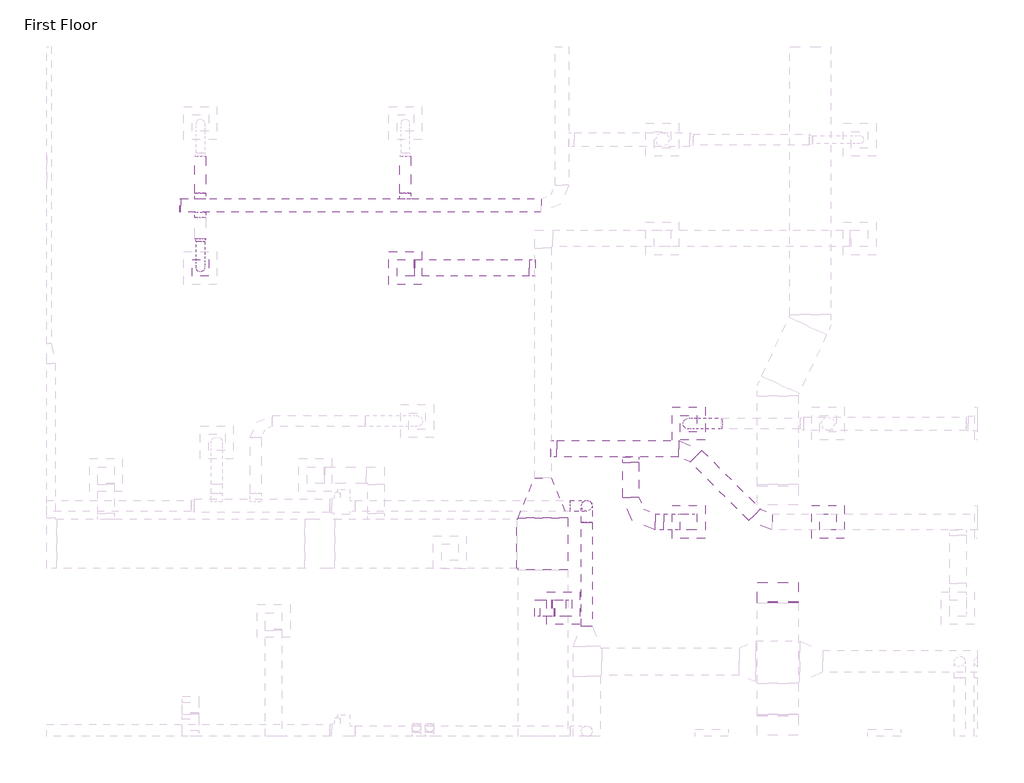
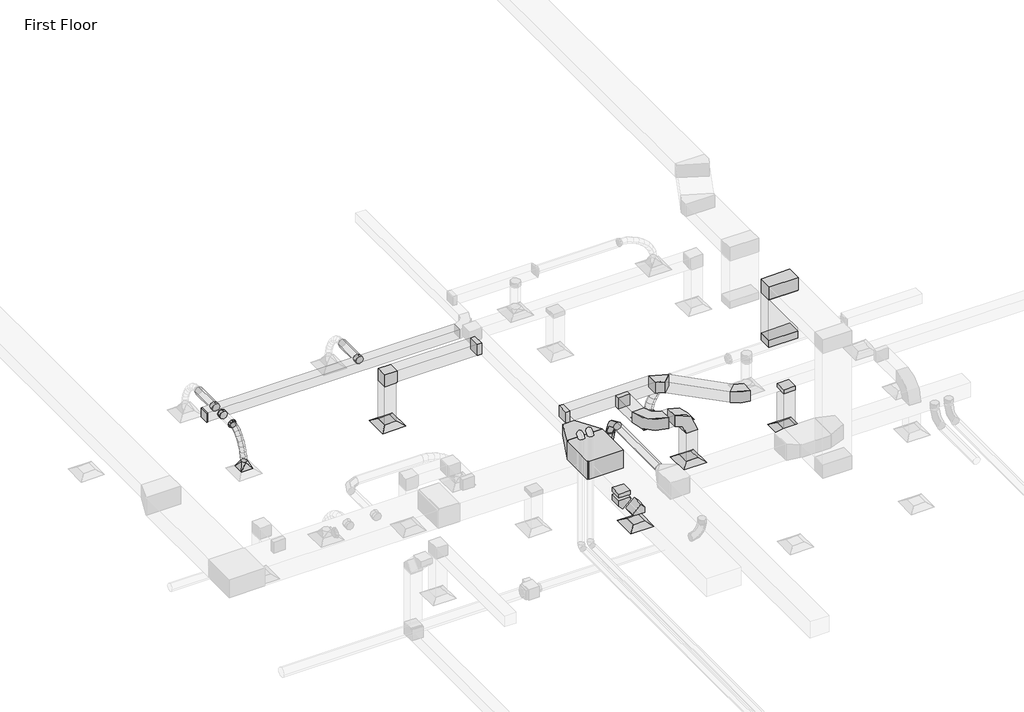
# One storey, part 14 of 61: 25 duct fittings, 19 duct segments, 5 air terminals.
"""IFC4 building model written with IfcOpenShell, lengths in millimetres."""

from ifc_helpers import new_model, si_unit, point, frame, frame_2d, origin, place, context, project, spatial, polyline, circle_curve, ellipse_curve, trimmed, segment, composite_curve, outline, extrude, transform, mapped, element, save
from ifc_brep_helpers import plane_surface, cylinder_surface, advanced_brep
from components import m_exhaust_grill_er_600_x_600_face_300_x_300_connection_ff221211, m_rectangular_elbow_mitered_standard_b81e202c, m_rectangular_elbow_mitered_standard_8eee5933, m_rectangular_elbow_mitered_standard_fe2310d5, m_rectangular_elbow_radius_1_5_w_5bed5c13, m_rectangular_elbow_radius_1_5_w_86011e9f, m_rectangular_endcap_standard_ffc747e0, m_rectangular_takeoff_standard_c00386d1, m_rectangular_takeoff_standard_b44bfa45, m_rectangular_takeoff_standard_ae9d706d, m_rectangular_tee_standard_27932f4a, m_rectangular_transition_angle_45_degree_1d3f6ee8, m_rectangular_to_round_transition_angle_45_degree_8f201c83, m_rectangular_to_round_transition_angle_45_degree_60daae35, m_round_elbow_1_5_d_b7bc3624, m_round_elbow_1_5_d_9c795b01, m_round_takeoff_standard_8efdd074, m_round_takeoff_standard_45336e8a, m_round_transition_angle_45_degree_6d7b59ce

model = new_model("IFC4")

# Units and contexts
model_context = context("Model", 3, world=origin())
ifc_project = project(units=[si_unit("LENGTHUNIT", "METRE", prefix="MILLI")], contexts=[model_context])

# Site, building, storey
site = spatial("IfcSite", under=ifc_project)
building = spatial("IfcBuilding", under=site)
storey = spatial("IfcBuildingStorey", under=building, Name="First Floor", Elevation=0.0)

# Air terminals
placement = place(None, origin())
m_exhaust_grill_er_600_x_600_face_300_x_300_connection_shape = m_exhaust_grill_er_600_x_600_face_300_x_300_connection_ff221211(model_context)
element("IfcAirTerminal", 1, ObjectType="M_Return Register : RR-600 x 600 Face 300 x 300 Connection", at=placement, inside=storey, context=model_context, shape_type="MappedRepresentation", body=[
    mapped(m_exhaust_grill_er_600_x_600_face_300_x_300_connection_shape, transform((-37211.3143318, 25626.8949438, 2680.0), x_axis=(1.0, 0.0, 0.0), y_axis=(0.0, 1.0, 0.0), z_axis=(0.0, 0.0, 1.0))),
])
element("IfcAirTerminal", 2, ObjectType="M_Return Register : RR-600 x 600 Face 300 x 300 Connection", at=placement, inside=storey, context=model_context, shape_type="MappedRepresentation", body=[
    mapped(m_exhaust_grill_er_600_x_600_face_300_x_300_connection_shape, transform((-34668.4421197, 25626.8949438, 2680.0), x_axis=(1.0, 0.0, 0.0), y_axis=(0.0, 1.0, 0.0), z_axis=(0.0, 0.0, 1.0))),
])
element("IfcAirTerminal", 3, ObjectType="M_Return Register : RR-600 x 600 Face 300 x 300 Connection", at=placement, inside=storey, context=model_context, shape_type="MappedRepresentation", body=[
    mapped(m_exhaust_grill_er_600_x_600_face_300_x_300_connection_shape, transform((-39495.2297098, 24053.9482503, 2680.0), x_axis=(1.0, 0.0, 0.0), y_axis=(0.0, 1.0, 0.0), z_axis=(0.0, 0.0, 1.0))),
])
element("IfcAirTerminal", 4, ObjectType="M_Return Register : RR-600 x 600 Face 300 x 300 Connection", at=placement, inside=storey, context=model_context, shape_type="MappedRepresentation", body=[
    mapped(m_exhaust_grill_er_600_x_600_face_300_x_300_connection_shape, transform((-42375.0776991, 30260.8017144, 2680.0), x_axis=(1.0, 0.0, 0.0), y_axis=(0.0, 1.0, 0.0), z_axis=(0.0, 0.0, 1.0))),
])
element("IfcAirTerminal", 5, ObjectType="M_Supply Diffuser : SD-600 x 600 Face 300 x 300 Connection", at=placement, inside=storey, context=model_context, shape_type="MappedRepresentation", body=[
    mapped(m_exhaust_grill_er_600_x_600_face_300_x_300_connection_shape, transform((-37211.3143318, 27420.2137368, 2680.0), x_axis=(1.0, 0.0, 0.0), y_axis=(0.0, 1.0, 0.0), z_axis=(0.0, 0.0, 1.0))),
])

# Duct fittings
m_rectangular_elbow_mitered_standard_shape = m_rectangular_elbow_mitered_standard_b81e202c(model_context)
element("IfcDuctFitting", 6, ObjectType="M_Rectangular Elbow - Mitered : Standard", at=placement, inside=storey, context=model_context, shape_type="MappedRepresentation", body=[
    mapped(m_rectangular_elbow_mitered_standard_shape, transform((-39495.2297098, 24053.9482503, 3114.4679656), x_axis=(0.0, 0.0, 1.0), y_axis=(-1.0, 0.0, 0.0), z_axis=(0.0, -1.0, 0.0))),
])
element("IfcDuctFitting", 7, ObjectType="M_Rectangular Elbow - Mitered : Standard", at=placement, inside=storey, context=model_context, shape_type="MappedRepresentation", body=[
    mapped(m_rectangular_elbow_mitered_standard_shape, transform((-39867.4195561, 24053.9482503, 3486.657812), x_axis=(-0.7071067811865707, 0.0, 0.7071067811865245), y_axis=(0.7071067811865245, 0.0, 0.7071067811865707), z_axis=(0.0, 1.0, 0.0))),
])
m_rectangular_elbow_mitered_standard_2_shape = m_rectangular_elbow_mitered_standard_8eee5933(model_context)
element("IfcDuctFitting", 8, ObjectType="M_Rectangular Elbow - Mitered : Standard", at=placement, inside=storey, context=model_context, shape_type="MappedRepresentation", body=[
    mapped(m_rectangular_elbow_mitered_standard_2_shape, transform((-42375.0776991, 30260.8017144, 4000.0), x_axis=(0.0, 0.0, 1.0), y_axis=(1.0, 0.0, 0.0), z_axis=(0.0, 1.0, 0.0))),
])
m_rectangular_elbow_mitered_standard_3_shape = m_rectangular_elbow_mitered_standard_fe2310d5(model_context)
element("IfcDuctFitting", 9, ObjectType="M_Rectangular Elbow - Mitered : Standard", at=placement, inside=storey, context=model_context, shape_type="MappedRepresentation", body=[
    mapped(m_rectangular_elbow_mitered_standard_3_shape, transform((-35582.8559727, 24346.9475748, 7719.5), x_axis=(0.0, 1.0, 0.0), y_axis=(0.0, 0.0, -1.0), z_axis=(-1.0, 0.0, 0.0))),
])
m_rectangular_elbow_radius_1_5_w_shape = m_rectangular_elbow_radius_1_5_w_5bed5c13(model_context)
element("IfcDuctFitting", 10, ObjectType="M_Rectangular Elbow - Radius : 1.5 W", at=placement, inside=storey, context=model_context, shape_type="MappedRepresentation", body=[
    mapped(m_rectangular_elbow_radius_1_5_w_shape, transform((-35875.1238283, 25626.8949438, 4000.0), x_axis=(0.7071067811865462, -0.7071067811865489, 0.0), y_axis=(0.7071067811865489, 0.7071067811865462, 0.0), z_axis=(0.0, 0.0, 1.0))),
])
element("IfcDuctFitting", 11, ObjectType="M_Rectangular Elbow - Radius : 1.5 W", at=placement, inside=storey, context=model_context, shape_type="MappedRepresentation", body=[
    mapped(m_rectangular_elbow_radius_1_5_w_shape, transform((-37207.2587475, 26959.029863, 4000.0), x_axis=(-0.7071067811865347, 0.7071067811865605, 0.0), y_axis=(-0.7071067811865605, -0.7071067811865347, 0.0), z_axis=(0.0, 0.0, 1.0))),
])
m_rectangular_elbow_radius_1_5_w_2_shape = m_rectangular_elbow_radius_1_5_w_86011e9f(model_context)
element("IfcDuctFitting", 12, ObjectType="M_Rectangular Elbow - Radius : 1.5 W", at=placement, inside=storey, context=model_context, shape_type="MappedRepresentation", body=[
    mapped(m_rectangular_elbow_radius_1_5_w_2_shape, transform((-37211.3143318, 25626.8949438, 4000.0), x_axis=(0.0, 0.0, 1.0), y_axis=(-1.0, 0.0, 0.0), z_axis=(0.0, -1.0, 0.0))),
])
element("IfcDuctFitting", 13, ObjectType="M_Rectangular Elbow - Radius : 1.5 W", at=placement, inside=storey, context=model_context, shape_type="MappedRepresentation", body=[
    mapped(m_rectangular_elbow_radius_1_5_w_2_shape, transform((-38265.9613903, 25626.8949438, 4000.0), x_axis=(0.0, -1.0, 0.0), y_axis=(1.0, 0.0, 0.0), z_axis=(0.0, 0.0, 1.0))),
])
m_rectangular_endcap_standard_shape = m_rectangular_endcap_standard_ffc747e0(model_context)
element("IfcDuctFitting", 14, ObjectType="M_Rectangular Endcap : Standard", at=placement, inside=storey, context=model_context, shape_type="MappedRepresentation", body=[
    mapped(m_rectangular_endcap_standard_shape, transform((-46468.4687402, 31400.6692233, 3659.5), x_axis=(-1.0, 0.0, 0.0), y_axis=(0.0, -1.0, 0.0), z_axis=(0.0, 0.0, 1.0))),
])
m_rectangular_takeoff_standard_shape = m_rectangular_takeoff_standard_c00386d1(model_context)
element("IfcDuctFitting", 15, ObjectType="M_Rectangular Takeoff : Standard", at=placement, inside=storey, context=model_context, shape_type="MappedRepresentation", body=[
    mapped(m_rectangular_takeoff_standard_shape, transform((-34668.4421197, 25626.8949438, 3850.0), x_axis=(0.0, 0.0, -1.0), y_axis=(0.0, 1.0, 0.0), z_axis=(1.0, 0.0, 0.0))),
])
element("IfcDuctFitting", 16, ObjectType="M_Rectangular Takeoff : Standard", at=placement, inside=storey, context=model_context, shape_type="MappedRepresentation", body=[
    mapped(m_rectangular_takeoff_standard_shape, transform((-39867.4195561, 24053.9482503, 3750.0), x_axis=(0.0, 0.0, -1.0), y_axis=(1.0, 0.0, 0.0), z_axis=(0.0, -1.0, 0.0))),
])
element("IfcDuctFitting", 17, ObjectType="M_Rectangular Takeoff : Standard", at=placement, inside=storey, context=model_context, shape_type="MappedRepresentation", body=[
    mapped(m_rectangular_takeoff_standard_shape, transform((-38265.9613903, 26809.029863, 4000.0), x_axis=(0.0, -1.0, 0.0), y_axis=(-1.0, 0.0, 0.0), z_axis=(0.0, 0.0, -1.0))),
])
m_rectangular_takeoff_standard_2_shape = m_rectangular_takeoff_standard_b44bfa45(model_context)
element("IfcDuctFitting", 18, ObjectType="M_Rectangular Takeoff : Standard", at=placement, inside=storey, context=model_context, shape_type="MappedRepresentation", body=[
    mapped(m_rectangular_takeoff_standard_2_shape, transform((-40017.4195561, 30260.8017144, 4000.0), x_axis=(-1.0, 0.0, 0.0), y_axis=(0.0, 1.0, 0.0), z_axis=(0.0, 0.0, -1.0))),
])
element("IfcDuctFitting", 19, ObjectType="M_Rectangular Takeoff : Standard", at=placement, inside=storey, context=model_context, shape_type="MappedRepresentation", body=[
    mapped(m_rectangular_takeoff_standard_2_shape, transform((-39717.4195561, 26959.029863, 4000.0), x_axis=(1.0, 0.0, 0.0), y_axis=(0.0, -1.0, 0.0), z_axis=(0.0, 0.0, -1.0))),
])
m_rectangular_takeoff_standard_3_shape = m_rectangular_takeoff_standard_ae9d706d(model_context)
element("IfcDuctFitting", 20, ObjectType="M_Rectangular Takeoff : Standard", at=placement, inside=storey, context=model_context, shape_type="MappedRepresentation", body=[
    mapped(m_rectangular_takeoff_standard_3_shape, transform((-35582.8559727, 24346.9475748, 6220.0), x_axis=(0.0, 0.0, 1.0), y_axis=(1.0, 0.0, 0.0), z_axis=(0.0, 1.0, 0.0))),
])
m_rectangular_tee_standard_shape = m_rectangular_tee_standard_27932f4a(model_context)
element("IfcDuctFitting", 21, ObjectType="M_Rectangular Tee : Standard", at=placement, inside=storey, context=model_context, shape_type="MappedRepresentation", body=[
    mapped(m_rectangular_tee_standard_shape, transform((-39867.4195561, 25228.8199771, 4000.0), x_axis=(0.0, -1.0, 0.0), y_axis=(0.9999999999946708, 0.0, 3.264712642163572e-06), z_axis=(-3.264712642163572e-06, 0.0, 0.9999999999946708))),
])
m_rectangular_transition_angle_45_degree_shape = m_rectangular_transition_angle_45_degree_1d3f6ee8(model_context)
element("IfcDuctFitting", 22, ObjectType="M_Rectangular Transition - Angle : 45 Degree", at=placement, inside=storey, context=model_context, shape_type="MappedRepresentation", body=[
    mapped(m_rectangular_transition_angle_45_degree_shape, transform((-39867.4195561, 25703.8199771, 4000.0), x_axis=(0.0, 1.0, 0.0), y_axis=(-0.9999999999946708, 0.0, -3.264712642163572e-06), z_axis=(-3.264712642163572e-06, 0.0, 0.9999999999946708))),
])
m_rectangular_to_round_transition_angle_45_degree_shape = m_rectangular_to_round_transition_angle_45_degree_8f201c83(model_context)
element("IfcDuctFitting", 23, ObjectType="M_Rectangular to Round Transition - Angle : 45 Degree", at=placement, inside=storey, context=model_context, shape_type="MappedRepresentation", body=[
    mapped(m_rectangular_to_round_transition_angle_45_degree_shape, transform((-46112.4296862, 30260.8017144, 2781.6), x_axis=(0.0, 0.0, 1.0), y_axis=(1.0, 0.0, 0.0), z_axis=(0.0, 1.0, 0.0))),
])
m_rectangular_to_round_transition_angle_45_degree_2_shape = m_rectangular_to_round_transition_angle_45_degree_60daae35(model_context)
element("IfcDuctFitting", 24, ObjectType="M_Rectangular to Round Transition - Angle : 45 Degree", at=placement, inside=storey, context=model_context, shape_type="MappedRepresentation", body=[
    mapped(m_rectangular_to_round_transition_angle_45_degree_2_shape, transform((-37211.3143318, 27420.2137368, 2781.6), x_axis=(0.0, 0.0, 1.0), y_axis=(1.0, 0.0, 0.0), z_axis=(0.0, 1.0, 0.0))),
])
m_round_elbow_1_5_d_shape = m_round_elbow_1_5_d_b7bc3624(model_context)
element("IfcDuctFitting", 25, ObjectType="M_Round Elbow : 1.5 D", at=placement, inside=storey, context=model_context, shape_type="MappedRepresentation", body=[
    mapped(m_round_elbow_1_5_d_shape, transform((-39067.4195561, 25921.8621835, 4259.5), x_axis=(0.0, 0.0, 1.0), y_axis=(0.0, -1.0, 0.0), z_axis=(1.0, 0.0, 0.0))),
])
m_round_elbow_1_5_d_2_shape = m_round_elbow_1_5_d_9c795b01(model_context)
element("IfcDuctFitting", 26, ObjectType="M_Round Elbow : 1.5 D", at=placement, inside=storey, context=model_context, shape_type="MappedRepresentation", body=[
    mapped(m_round_elbow_1_5_d_2_shape, transform((-39067.4195561, 25921.8621835, 3634.5), x_axis=(0.9999999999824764, 0.0, -5.920075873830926e-06), y_axis=(5.920075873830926e-06, 0.0, 0.9999999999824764), z_axis=(0.0, -1.0, 0.0))),
])
m_round_takeoff_standard_shape = m_round_takeoff_standard_8efdd074(model_context)
element("IfcDuctFitting", 27, ObjectType="M_Round Takeoff : Standard", at=placement, inside=storey, context=model_context, shape_type="MappedRepresentation", body=[
    mapped(m_round_takeoff_standard_shape, transform((-46112.4296862, 31275.6692233, 3659.5), x_axis=(0.0, -1.0, 0.0), y_axis=(-1.0, 0.0, 0.0), z_axis=(0.0, 0.0, -1.0))),
])
m_round_takeoff_standard_2_shape = m_round_takeoff_standard_45336e8a(model_context)
element("IfcDuctFitting", 28, ObjectType="M_Round Takeoff : Standard", at=placement, inside=storey, context=model_context, shape_type="MappedRepresentation", body=[
    mapped(m_round_takeoff_standard_2_shape, transform((-42375.0776991, 31525.6692233, 3659.5), x_axis=(0.0, 1.0, 0.0), y_axis=(1.0, 0.0, 0.0), z_axis=(0.0, 0.0, -1.0))),
])
element("IfcDuctFitting", 29, ObjectType="M_Round Takeoff : Standard", at=placement, inside=storey, context=model_context, shape_type="MappedRepresentation", body=[
    mapped(m_round_takeoff_standard_2_shape, transform((-46112.4296862, 31525.6692233, 3659.5), x_axis=(0.0, 1.0, 0.0), y_axis=(1.0, 0.0, 0.0), z_axis=(0.0, 0.0, -1.0))),
])
m_round_transition_angle_45_degree_shape = m_round_transition_angle_45_degree_6d7b59ce(model_context)
element("IfcDuctFitting", 30, ObjectType="M_Round Transition - Angle : 45 Degree", at=placement, inside=storey, context=model_context, shape_type="MappedRepresentation", body=[
    mapped(m_round_transition_angle_45_degree_shape, transform((-46112.4296862, 30800.6692233, 3659.5), x_axis=(0.0, -1.0, 0.0), y_axis=(1.0, 0.0, 0.0), z_axis=(0.0, 0.0, 1.0))),
])

# Duct segments
element("IfcDuctSegment", 31, ObjectType="Flex - Round", at=placement, inside=storey, context=model_context, shape_type="AdvancedBrep", body=[
    advanced_brep(
    [(-46037.4296862, 30740.3138842, 3659.5), (-46112.4296862, 30753.6686669, 3585.6985787), (-46187.4296862, 30740.3138842, 3659.5), (-46112.4296862, 30726.9591016, 3733.3014213), (-46037.4296862, 30638.7566817, 3641.1226525), (-46112.4296862, 30664.1907487, 3569.5070457), (-46187.4296862, 30638.7566817, 3641.1226525), (-46112.4296862, 30613.3226147, 3712.7382593), (-46037.4296862, 30260.8017144, 2962.6660172), (-46112.4296862, 30186.0496377, 2968.7592134), (-46187.4296862, 30260.8017144, 2962.6660172), (-46112.4296862, 30335.553791, 2956.572821), (-46037.4296862, 30546.4385198, 3590.2702195), (-46112.4296862, 30590.9255392, 3529.1497197), (-46187.4296862, 30546.4385198, 3590.2702195), (-46112.4296862, 30501.9515004, 3651.3907193), (-46037.4296862, 30464.6853327, 3513.3621151), (-46112.4296862, 30521.2668305, 3463.6193174), (-46187.4296862, 30464.6853327, 3513.3621151), (-46112.4296862, 30408.1038349, 3563.1049128), (-46037.4296862, 30394.8230545, 3416.8177534), (-46112.4296862, 30458.8867792, 3377.4148249), (-46187.4296862, 30394.8230545, 3416.8177534), (-46112.4296862, 30330.7593298, 3456.2206819), (-46037.4296862, 30338.1776194, 3307.0565486), (-46112.4296862, 30407.060902, 3276.9924217), (-46187.4296862, 30338.1776194, 3307.0565486), (-46112.4296862, 30269.2943369, 3337.1206755), (-46037.4296862, 30296.0749616, 3190.4979149), (-46112.4296862, 30368.2207748, 3169.4659045), (-46187.4296862, 30296.0749616, 3190.4979149), (-46112.4296862, 30223.9291485, 3211.5299253), (-46037.4296862, 30269.8410152, 3073.5612664), (-46112.4296862, 30344.1678387, 3062.2510123), (-46187.4296862, 30269.8410152, 3073.5612664), (-46112.4296862, 30195.5141917, 3084.8715204)],
    [
        (0, 1, circle_curve(frame((-46112.4296862, 30740.3138842, 3659.5), z_axis=(0.0, 0.9840189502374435, 0.17806376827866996), x_axis=(1.0, 0.0, 0.0)), 75.0)),
        (1, 2, circle_curve(frame((-46112.4296862, 30740.3138842, 3659.5), z_axis=(0.0, 0.9840189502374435, 0.17806376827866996), x_axis=(1.0, 0.0, 0.0)), 75.0)),
        (2, 3, circle_curve(frame((-46112.4296862, 30740.3138842, 3659.5), z_axis=(0.0, 0.9840189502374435, 0.17806376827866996), x_axis=(1.0, 0.0, 0.0)), 75.0)),
        (3, 0, circle_curve(frame((-46112.4296862, 30740.3138842, 3659.5), z_axis=(0.0, 0.9840189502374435, 0.17806376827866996), x_axis=(1.0, 0.0, 0.0)), 75.0)),
        (0, 4),
        (4, 5, ellipse_curve(frame((-46112.4296862, 30638.7566817, 3641.1226525), z_axis=(0.0, 0.9423361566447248, 0.33466784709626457), x_axis=(0.0, 0.3346678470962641, -0.9423361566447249)), 75.9979401, 75.0)),
        (5, 1),
        (5, 6, ellipse_curve(frame((-46112.4296862, 30638.7566817, 3641.1226525), z_axis=(0.0, 0.9423361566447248, 0.33466784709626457), x_axis=(0.0, 0.3346678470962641, -0.9423361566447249)), 75.9979401, 75.0)),
        (6, 2),
        (6, 7, ellipse_curve(frame((-46112.4296862, 30638.7566817, 3641.1226525), z_axis=(0.0, 0.9423361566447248, 0.33466784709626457), x_axis=(0.0, 0.3346678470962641, -0.9423361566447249)), 75.9979401, 75.0)),
        (7, 3),
        (7, 4, ellipse_curve(frame((-46112.4296862, 30638.7566817, 3641.1226525), z_axis=(0.0, 0.9423361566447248, 0.33466784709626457), x_axis=(0.0, 0.3346678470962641, -0.9423361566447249)), 75.9979401, 75.0)),
        (8, 9, circle_curve(frame((-46112.4296862, 30260.8017144, 2962.6660172), z_axis=(0.0, -0.08124261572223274, -0.9966943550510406), x_axis=(1.0, 0.0, 0.0)), 75.0)),
        (9, 10, circle_curve(frame((-46112.4296862, 30260.8017144, 2962.6660172), z_axis=(0.0, -0.08124261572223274, -0.9966943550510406), x_axis=(1.0, 0.0, 0.0)), 75.0)),
        (10, 11, circle_curve(frame((-46112.4296862, 30260.8017144, 2962.6660172), z_axis=(0.0, -0.08124261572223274, -0.9966943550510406), x_axis=(1.0, 0.0, 0.0)), 75.0)),
        (11, 8, circle_curve(frame((-46112.4296862, 30260.8017144, 2962.6660172), z_axis=(0.0, -0.08124261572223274, -0.9966943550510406), x_axis=(1.0, 0.0, 0.0)), 75.0)),
        (4, 12),
        (12, 13, ellipse_curve(frame((-46112.4296862, 30546.4385198, 3590.2702195), z_axis=(0.0, 0.8085110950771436, 0.5884809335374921), x_axis=(0.0, 0.5884809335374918, -0.8085110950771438)), 75.5963649, 75.0)),
        (13, 5),
        (13, 14, ellipse_curve(frame((-46112.4296862, 30546.4385198, 3590.2702195), z_axis=(0.0, 0.8085110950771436, 0.5884809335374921), x_axis=(0.0, 0.5884809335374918, -0.8085110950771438)), 75.5963649, 75.0)),
        (14, 6),
        (14, 15, ellipse_curve(frame((-46112.4296862, 30546.4385198, 3590.2702195), z_axis=(0.0, 0.8085110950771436, 0.5884809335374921), x_axis=(0.0, 0.5884809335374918, -0.8085110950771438)), 75.5963649, 75.0)),
        (15, 7),
        (15, 12, ellipse_curve(frame((-46112.4296862, 30546.4385198, 3590.2702195), z_axis=(0.0, 0.8085110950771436, 0.5884809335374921), x_axis=(0.0, 0.5884809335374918, -0.8085110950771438)), 75.5963649, 75.0)),
        (12, 16),
        (16, 17, ellipse_curve(frame((-46112.4296862, 30464.6853327, 3513.3621151), z_axis=(0.0, 0.6602618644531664, 0.7510354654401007), x_axis=(0.0, 0.7510354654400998, -0.6602618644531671)), 75.3379839, 75.0)),
        (17, 13),
        (17, 18, ellipse_curve(frame((-46112.4296862, 30464.6853327, 3513.3621151), z_axis=(0.0, 0.6602618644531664, 0.7510354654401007), x_axis=(0.0, 0.7510354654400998, -0.6602618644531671)), 75.3379839, 75.0)),
        (18, 14),
        (18, 19, ellipse_curve(frame((-46112.4296862, 30464.6853327, 3513.3621151), z_axis=(0.0, 0.6602618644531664, 0.7510354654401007), x_axis=(0.0, 0.7510354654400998, -0.6602618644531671)), 75.3379839, 75.0)),
        (19, 15),
        (19, 16, ellipse_curve(frame((-46112.4296862, 30464.6853327, 3513.3621151), z_axis=(0.0, 0.6602618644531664, 0.7510354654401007), x_axis=(0.0, 0.7510354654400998, -0.6602618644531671)), 75.3379839, 75.0)),
        (16, 20),
        (20, 21, ellipse_curve(frame((-46112.4296862, 30394.8230545, 3416.8177534), z_axis=(0.0, 0.5238958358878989, 0.8517823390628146), x_axis=(0.0, 0.8517823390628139, -0.5238958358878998)), 75.2113794, 75.0)),
        (21, 17),
        (21, 22, ellipse_curve(frame((-46112.4296862, 30394.8230545, 3416.8177534), z_axis=(0.0, 0.5238958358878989, 0.8517823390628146), x_axis=(0.0, 0.8517823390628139, -0.5238958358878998)), 75.2113794, 75.0)),
        (22, 18),
        (22, 23, ellipse_curve(frame((-46112.4296862, 30394.8230545, 3416.8177534), z_axis=(0.0, 0.5238958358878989, 0.8517823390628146), x_axis=(0.0, 0.8517823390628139, -0.5238958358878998)), 75.2113794, 75.0)),
        (23, 19),
        (23, 20, ellipse_curve(frame((-46112.4296862, 30394.8230545, 3416.8177534), z_axis=(0.0, 0.5238958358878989, 0.8517823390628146), x_axis=(0.0, 0.8517823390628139, -0.5238958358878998)), 75.2113794, 75.0)),
        (20, 24),
        (24, 25, ellipse_curve(frame((-46112.4296862, 30338.1776194, 3307.0565486), z_axis=(0.0, 0.4000111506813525, 0.9165102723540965), x_axis=(0.0, 0.9165102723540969, -0.4000111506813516)), 75.1582221, 75.0)),
        (25, 21),
        (25, 26, ellipse_curve(frame((-46112.4296862, 30338.1776194, 3307.0565486), z_axis=(0.0, 0.4000111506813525, 0.9165102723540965), x_axis=(0.0, 0.9165102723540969, -0.4000111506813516)), 75.1582221, 75.0)),
        (26, 22),
        (26, 27, ellipse_curve(frame((-46112.4296862, 30338.1776194, 3307.0565486), z_axis=(0.0, 0.4000111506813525, 0.9165102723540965), x_axis=(0.0, 0.9165102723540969, -0.4000111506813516)), 75.1582221, 75.0)),
        (27, 23),
        (27, 24, ellipse_curve(frame((-46112.4296862, 30338.1776194, 3307.0565486), z_axis=(0.0, 0.4000111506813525, 0.9165102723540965), x_axis=(0.0, 0.9165102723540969, -0.4000111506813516)), 75.1582221, 75.0)),
        (24, 28),
        (28, 29, ellipse_curve(frame((-46112.4296862, 30296.0749616, 3190.4979149), z_axis=(0.0, 0.27987100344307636, 0.9600376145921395), x_axis=(0.0, 0.96003761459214, -0.2798710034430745)), 75.1489442, 75.0)),
        (29, 25),
        (29, 30, ellipse_curve(frame((-46112.4296862, 30296.0749616, 3190.4979149), z_axis=(0.0, 0.27987100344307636, 0.9600376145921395), x_axis=(0.0, 0.96003761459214, -0.2798710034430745)), 75.1489442, 75.0)),
        (30, 26),
        (30, 31, ellipse_curve(frame((-46112.4296862, 30296.0749616, 3190.4979149), z_axis=(0.0, 0.27987100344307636, 0.9600376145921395), x_axis=(0.0, 0.96003761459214, -0.2798710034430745)), 75.1489442, 75.0)),
        (31, 27),
        (31, 28, ellipse_curve(frame((-46112.4296862, 30296.0749616, 3190.4979149), z_axis=(0.0, 0.27987100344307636, 0.9600376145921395), x_axis=(0.0, 0.96003761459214, -0.2798710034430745)), 75.1489442, 75.0)),
        (28, 32),
        (32, 33, ellipse_curve(frame((-46112.4296862, 30269.8410152, 3073.5612664), z_axis=(0.0, 0.15043745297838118, 0.9886195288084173), x_axis=(0.0, 0.9886195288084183, -0.15043745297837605)), 75.182435, 75.0)),
        (33, 29),
        (33, 34, ellipse_curve(frame((-46112.4296862, 30269.8410152, 3073.5612664), z_axis=(0.0, 0.15043745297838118, 0.9886195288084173), x_axis=(0.0, 0.9886195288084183, -0.15043745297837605)), 75.182435, 75.0)),
        (34, 30),
        (34, 35, ellipse_curve(frame((-46112.4296862, 30269.8410152, 3073.5612664), z_axis=(0.0, 0.15043745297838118, 0.9886195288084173), x_axis=(0.0, 0.9886195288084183, -0.15043745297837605)), 75.182435, 75.0)),
        (35, 31),
        (35, 32, ellipse_curve(frame((-46112.4296862, 30269.8410152, 3073.5612664), z_axis=(0.0, 0.15043745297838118, 0.9886195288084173), x_axis=(0.0, 0.9886195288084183, -0.15043745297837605)), 75.182435, 75.0)),
        (32, 8),
        (11, 33),
        (10, 34),
        (9, 35),
    ],
    [
        plane_surface(frame((-46112.4296862, 30753.6686669, 3585.6985787), z_axis=(0.0, 0.9840189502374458, 0.17806376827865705), x_axis=(1.0, 0.0, 0.0))),
        cylinder_surface(frame((-46112.4296862, 30740.3138842, 3659.5), z_axis=(0.0, 0.9840189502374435, 0.17806376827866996), x_axis=(1.0, 0.0, 0.0)), 75.0),
        plane_surface(frame((-46112.4296862, 30335.553791, 2956.572821), z_axis=(0.0, -0.08124261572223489, -0.9966943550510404), x_axis=(1.0, 0.0, 0.0))),
        cylinder_surface(frame((-46112.4296862, 30638.7566817, 3641.1226525), z_axis=(0.0, 0.8759054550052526, 0.482482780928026), x_axis=(1.0, 0.0, 0.0)), 75.0),
        cylinder_surface(frame((-46112.4296862, 30546.4385198, 3590.2702195), z_axis=(0.0, 0.7283603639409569, 0.6851942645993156), x_axis=(1.0, 0.0, 0.0)), 75.0),
        cylinder_surface(frame((-46112.4296862, 30464.6853327, 3513.3621151), z_axis=(0.0, 0.5862391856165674, 0.8101380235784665), x_axis=(1.0, 0.0, 0.0)), 75.0),
        cylinder_surface(frame((-46112.4296862, 30394.8230545, 3416.8177534), z_axis=(0.0, 0.45860769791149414, 0.8886388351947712), x_axis=(1.0, 0.0, 0.0)), 75.0),
        cylinder_surface(frame((-46112.4296862, 30338.1776194, 3307.0565486), z_axis=(0.0, 0.3397304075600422, 0.9405228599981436), x_axis=(1.0, 0.0, 0.0)), 75.0),
        cylinder_surface(frame((-46112.4296862, 30296.0749616, 3190.4979149), z_axis=(0.0, 0.21890219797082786, 0.9757468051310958), x_axis=(1.0, 0.0, 0.0)), 75.0),
        cylinder_surface(frame((-46112.4296862, 30269.8410152, 3073.5612664), z_axis=(0.0, 0.08124261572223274, 0.9966943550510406), x_axis=(1.0, 0.0, 0.0)), 75.0),
    ],
    [
        (0, [[1, 2, 3, 4]]),
        (1, [[-1, 5, 6, 7]]),
        (1, [[-2, -7, 8, 9]]),
        (1, [[-3, -9, 10, 11]]),
        (1, [[-4, -11, 12, -5]]),
        (2, [[13, 14, 15, 16]]),
        (3, [[-6, 17, 18, 19]]),
        (3, [[-8, -19, 20, 21]]),
        (3, [[-10, -21, 22, 23]]),
        (3, [[-12, -23, 24, -17]]),
        (4, [[-18, 25, 26, 27]]),
        (4, [[-20, -27, 28, 29]]),
        (4, [[-22, -29, 30, 31]]),
        (4, [[-24, -31, 32, -25]]),
        (5, [[-26, 33, 34, 35]]),
        (5, [[-28, -35, 36, 37]]),
        (5, [[-30, -37, 38, 39]]),
        (5, [[-32, -39, 40, -33]]),
        (6, [[-34, 41, 42, 43]]),
        (6, [[-36, -43, 44, 45]]),
        (6, [[-38, -45, 46, 47]]),
        (6, [[-40, -47, 48, -41]]),
        (7, [[-42, 49, 50, 51]]),
        (7, [[-44, -51, 52, 53]]),
        (7, [[-46, -53, 54, 55]]),
        (7, [[-48, -55, 56, -49]]),
        (8, [[-50, 57, 58, 59]]),
        (8, [[-52, -59, 60, 61]]),
        (8, [[-54, -61, 62, 63]]),
        (8, [[-56, -63, 64, -57]]),
        (9, [[-58, 65, -16, 66]]),
        (9, [[-60, -66, -15, 67]]),
        (9, [[-62, -67, -14, 68]]),
        (9, [[-64, -68, -13, -65]]),
    ],
),
])
element("IfcDuctSegment", 32, ObjectType="Flex - Round", at=placement, inside=storey, context=model_context, shape_type="AdvancedBrep", body=[
    advanced_brep(
    [(-36614.4400538, 27320.2137368, 3644.1), (-36598.4975964, 27420.2137368, 3545.3789888), (-36614.4400538, 27520.2137368, 3644.1), (-36630.3825112, 27420.2137368, 3742.8210112), (-36731.2067395, 27320.2137368, 3625.2433464), (-36701.189744, 27420.2137368, 3528.7952325), (-36731.2067395, 27520.2137368, 3625.2433464), (-36761.223735, 27420.2137368, 3721.6914602), (-37211.3143318, 27320.2137368, 2902.3106781), (-37310.791234, 27420.2137368, 2912.5256639), (-37211.3143318, 27520.2137368, 2902.3106781), (-37111.8374296, 27420.2137368, 2892.0956923), (-36841.5918959, 27320.2137368, 3572.8254972), (-36788.5268688, 27420.2137368, 3487.3220454), (-36841.5918959, 27520.2137368, 3572.8254972), (-36894.6569229, 27420.2137368, 3658.3289489), (-36942.7638018, 27320.2137368, 3493.0746199), (-36873.7898298, 27420.2137368, 3420.1117278), (-36942.7638018, 27520.2137368, 3493.0746199), (-37011.7377738, 27420.2137368, 3566.0375121), (-37031.890736, 27320.2137368, 3392.2188823), (-36951.8711372, 27420.2137368, 3331.7551841), (-37031.890736, 27520.2137368, 3392.2188823), (-37111.9103348, 27420.2137368, 3452.6825804), (-37106.1409773, 27320.2137368, 3276.4864517), (-37018.0855654, 27420.2137368, 3228.5480218), (-37106.1409773, 27520.2137368, 3276.4864517), (-37194.1963893, 27420.2137368, 3324.4248816), (-37162.6828046, 27320.2137368, 3152.1054958), (-37068.537563, 27420.2137368, 3117.5634994), (-37162.6828046, 27520.2137368, 3152.1054958), (-37256.8280462, 27420.2137368, 3186.6474922), (-37198.6844965, 27320.2137368, 3025.3041821), (-37100.1001609, 27420.2137368, 3006.3970884), (-37198.6844965, 27520.2137368, 3025.3041821), (-37297.2688321, 27420.2137368, 3044.2112757)],
    [
        (0, 1, circle_curve(frame((-36614.4400538, 27420.2137368, 3644.1), z_axis=(0.9872101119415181, 0.0, 0.15942457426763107), x_axis=(0.0, -1.0, 0.0)), 100.0)),
        (1, 2, circle_curve(frame((-36614.4400538, 27420.2137368, 3644.1), z_axis=(0.9872101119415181, 0.0, 0.15942457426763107), x_axis=(0.0, -1.0, 0.0)), 100.0)),
        (2, 3, circle_curve(frame((-36614.4400538, 27420.2137368, 3644.1), z_axis=(0.9872101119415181, 0.0, 0.15942457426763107), x_axis=(0.0, -1.0, 0.0)), 100.0)),
        (3, 0, circle_curve(frame((-36614.4400538, 27420.2137368, 3644.1), z_axis=(0.9872101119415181, 0.0, 0.15942457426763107), x_axis=(0.0, -1.0, 0.0)), 100.0)),
        (0, 4),
        (4, 5, ellipse_curve(frame((-36731.2067395, 27420.2137368, 3625.2433464), z_axis=(0.9548261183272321, 0.0, 0.29716507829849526), x_axis=(0.29716507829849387, 0.0, -0.9548261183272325)), 101.011181, 100.0)),
        (5, 1),
        (5, 6, ellipse_curve(frame((-36731.2067395, 27420.2137368, 3625.2433464), z_axis=(0.9548261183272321, 0.0, 0.29716507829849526), x_axis=(0.29716507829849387, 0.0, -0.9548261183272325)), 101.011181, 100.0)),
        (6, 2),
        (6, 7, ellipse_curve(frame((-36731.2067395, 27420.2137368, 3625.2433464), z_axis=(0.9548261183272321, 0.0, 0.29716507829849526), x_axis=(0.29716507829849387, 0.0, -0.9548261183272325)), 101.011181, 100.0)),
        (7, 3),
        (7, 4, ellipse_curve(frame((-36731.2067395, 27420.2137368, 3625.2433464), z_axis=(0.9548261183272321, 0.0, 0.29716507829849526), x_axis=(0.29716507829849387, 0.0, -0.9548261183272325)), 101.011181, 100.0)),
        (8, 9, circle_curve(frame((-37211.3143318, 27420.2137368, 2902.3106781), z_axis=(-0.10214985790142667, 0.0, -0.9947690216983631), x_axis=(0.0, -1.0, 0.0)), 100.0)),
        (9, 10, circle_curve(frame((-37211.3143318, 27420.2137368, 2902.3106781), z_axis=(-0.10214985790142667, 0.0, -0.9947690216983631), x_axis=(0.0, -1.0, 0.0)), 100.0)),
        (10, 11, circle_curve(frame((-37211.3143318, 27420.2137368, 2902.3106781), z_axis=(-0.10214985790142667, 0.0, -0.9947690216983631), x_axis=(0.0, -1.0, 0.0)), 100.0)),
        (11, 8, circle_curve(frame((-37211.3143318, 27420.2137368, 2902.3106781), z_axis=(-0.10214985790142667, 0.0, -0.9947690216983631), x_axis=(0.0, -1.0, 0.0)), 100.0)),
        (4, 12),
        (12, 13, ellipse_curve(frame((-36841.5918959, 27420.2137368, 3572.8254972), z_axis=(0.8496672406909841, 0.0, 0.5273192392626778), x_axis=(0.5273192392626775, 0.0, -0.8496672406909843)), 100.6316916, 100.0)),
        (13, 5),
        (13, 14, ellipse_curve(frame((-36841.5918959, 27420.2137368, 3572.8254972), z_axis=(0.8496672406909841, 0.0, 0.5273192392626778), x_axis=(0.5273192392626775, 0.0, -0.8496672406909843)), 100.6316916, 100.0)),
        (14, 6),
        (14, 15, ellipse_curve(frame((-36841.5918959, 27420.2137368, 3572.8254972), z_axis=(0.8496672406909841, 0.0, 0.5273192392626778), x_axis=(0.5273192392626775, 0.0, -0.8496672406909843)), 100.6316916, 100.0)),
        (15, 7),
        (15, 12, ellipse_curve(frame((-36841.5918959, 27420.2137368, 3572.8254972), z_axis=(0.8496672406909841, 0.0, 0.5273192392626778), x_axis=(0.5273192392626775, 0.0, -0.8496672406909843)), 100.6316916, 100.0)),
        (12, 16),
        (16, 17, ellipse_curve(frame((-36942.7638018, 27420.2137368, 3493.0746199), z_axis=(0.7266920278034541, 0.0, 0.686963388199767), x_axis=(0.6869633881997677, 0.0, -0.7266920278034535)), 100.4041455, 100.0)),
        (17, 13),
        (17, 18, ellipse_curve(frame((-36942.7638018, 27420.2137368, 3493.0746199), z_axis=(0.7266920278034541, 0.0, 0.686963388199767), x_axis=(0.6869633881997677, 0.0, -0.7266920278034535)), 100.4041455, 100.0)),
        (18, 14),
        (18, 19, ellipse_curve(frame((-36942.7638018, 27420.2137368, 3493.0746199), z_axis=(0.7266920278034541, 0.0, 0.686963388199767), x_axis=(0.6869633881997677, 0.0, -0.7266920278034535)), 100.4041455, 100.0)),
        (19, 15),
        (19, 16, ellipse_curve(frame((-36942.7638018, 27420.2137368, 3493.0746199), z_axis=(0.7266920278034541, 0.0, 0.686963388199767), x_axis=(0.6869633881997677, 0.0, -0.7266920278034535)), 100.4041455, 100.0)),
        (16, 20),
        (20, 21, ellipse_curve(frame((-37031.890736, 27420.2137368, 3392.2188823), z_axis=(0.6028613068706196, 0.0, 0.7978460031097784), x_axis=(0.7978460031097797, 0.0, -0.6028613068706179)), 100.2945412, 100.0)),
        (21, 17),
        (21, 22, ellipse_curve(frame((-37031.890736, 27420.2137368, 3392.2188823), z_axis=(0.6028613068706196, 0.0, 0.7978460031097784), x_axis=(0.7978460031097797, 0.0, -0.6028613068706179)), 100.2945412, 100.0)),
        (22, 18),
        (22, 23, ellipse_curve(frame((-37031.890736, 27420.2137368, 3392.2188823), z_axis=(0.6028613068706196, 0.0, 0.7978460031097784), x_axis=(0.7978460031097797, 0.0, -0.6028613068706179)), 100.2945412, 100.0)),
        (23, 19),
        (23, 20, ellipse_curve(frame((-37031.890736, 27420.2137368, 3392.2188823), z_axis=(0.6028613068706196, 0.0, 0.7978460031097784), x_axis=(0.7978460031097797, 0.0, -0.6028613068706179)), 100.2945412, 100.0)),
        (20, 24),
        (24, 25, ellipse_curve(frame((-37106.1409773, 27420.2137368, 3276.4864517), z_axis=(0.4781463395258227, 0.0, 0.8782801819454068), x_axis=(0.8782801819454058, 0.0, -0.4781463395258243)), 100.258908, 100.0)),
        (25, 21),
        (25, 26, ellipse_curve(frame((-37106.1409773, 27420.2137368, 3276.4864517), z_axis=(0.4781463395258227, 0.0, 0.8782801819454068), x_axis=(0.8782801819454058, 0.0, -0.4781463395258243)), 100.258908, 100.0)),
        (26, 22),
        (26, 27, ellipse_curve(frame((-37106.1409773, 27420.2137368, 3276.4864517), z_axis=(0.4781463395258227, 0.0, 0.8782801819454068), x_axis=(0.8782801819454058, 0.0, -0.4781463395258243)), 100.258908, 100.0)),
        (27, 23),
        (27, 24, ellipse_curve(frame((-37106.1409773, 27420.2137368, 3276.4864517), z_axis=(0.4781463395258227, 0.0, 0.8782801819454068), x_axis=(0.8782801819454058, 0.0, -0.4781463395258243)), 100.258908, 100.0)),
        (24, 28),
        (28, 29, ellipse_curve(frame((-37162.6828046, 27420.2137368, 3152.1054958), z_axis=(0.34444867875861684, 0.0, 0.9388051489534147), x_axis=(0.9388051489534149, 0.0, -0.34444867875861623)), 100.2819826, 100.0)),
        (29, 25),
        (29, 30, ellipse_curve(frame((-37162.6828046, 27420.2137368, 3152.1054958), z_axis=(0.34444867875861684, 0.0, 0.9388051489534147), x_axis=(0.9388051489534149, 0.0, -0.34444867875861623)), 100.2819826, 100.0)),
        (30, 26),
        (30, 31, ellipse_curve(frame((-37162.6828046, 27420.2137368, 3152.1054958), z_axis=(0.34444867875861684, 0.0, 0.9388051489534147), x_axis=(0.9388051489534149, 0.0, -0.34444867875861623)), 100.2819826, 100.0)),
        (31, 27),
        (31, 28, ellipse_curve(frame((-37162.6828046, 27420.2137368, 3152.1054958), z_axis=(0.34444867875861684, 0.0, 0.9388051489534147), x_axis=(0.9388051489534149, 0.0, -0.34444867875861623)), 100.2819826, 100.0)),
        (28, 32),
        (32, 33, ellipse_curve(frame((-37198.6844965, 27420.2137368, 3025.3041821), z_axis=(0.18835327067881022, 0.0, 0.9821013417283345), x_axis=(0.9821013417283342, 0.0, -0.18835327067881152)), 100.3810212, 100.0)),
        (33, 29),
        (33, 34, ellipse_curve(frame((-37198.6844965, 27420.2137368, 3025.3041821), z_axis=(0.18835327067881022, 0.0, 0.9821013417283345), x_axis=(0.9821013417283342, 0.0, -0.18835327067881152)), 100.3810212, 100.0)),
        (34, 30),
        (34, 35, ellipse_curve(frame((-37198.6844965, 27420.2137368, 3025.3041821), z_axis=(0.18835327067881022, 0.0, 0.9821013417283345), x_axis=(0.9821013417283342, 0.0, -0.18835327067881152)), 100.3810212, 100.0)),
        (35, 31),
        (35, 32, ellipse_curve(frame((-37198.6844965, 27420.2137368, 3025.3041821), z_axis=(0.18835327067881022, 0.0, 0.9821013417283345), x_axis=(0.9821013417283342, 0.0, -0.18835327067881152)), 100.3810212, 100.0)),
        (32, 8),
        (11, 33),
        (10, 34),
        (9, 35),
    ],
    [
        plane_surface(frame((-36614.4400538, 27520.2137368, 3644.1), z_axis=(0.987210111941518, 0.0, 0.15942457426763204), x_axis=(0.15942457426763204, 0.0, -0.987210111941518))),
        cylinder_surface(frame((-36614.4400538, 27420.2137368, 3644.1), z_axis=(0.9872101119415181, 0.0, 0.15942457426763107), x_axis=(0.0, -1.0, 0.0)), 100.0),
        plane_surface(frame((-37211.3143318, 27520.2137368, 2902.3106781), z_axis=(-0.10214985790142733, 0.0, -0.994769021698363), x_axis=(0.994769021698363, 0.0, -0.10214985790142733))),
        cylinder_surface(frame((-36731.2067395, 27420.2137368, 3625.2433464), z_axis=(0.9033253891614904, 0.0, 0.42895598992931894), x_axis=(0.0, -1.0, 0.0)), 100.0),
        cylinder_surface(frame((-36841.5918959, 27420.2137368, 3572.8254972), z_axis=(0.7853419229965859, 0.0, 0.6190622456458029), x_axis=(0.0, -1.0, 0.0)), 100.0),
        cylinder_surface(frame((-36942.7638018, 27420.2137368, 3493.0746199), z_axis=(0.6621919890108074, 0.0, 0.7493342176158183), x_axis=(0.0, -1.0, 0.0)), 100.0),
        cylinder_surface(frame((-37031.890736, 27420.2137368, 3392.2188823), z_axis=(0.5399897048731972, 0.0, 0.8416716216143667), x_axis=(0.0, -1.0, 0.0)), 100.0),
        cylinder_surface(frame((-37106.1409773, 27420.2137368, 3276.4864517), z_axis=(0.41383344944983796, 0.0, 0.9103526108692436), x_axis=(0.0, -1.0, 0.0)), 100.0),
        cylinder_surface(frame((-37162.6828046, 27420.2137368, 3152.1054958), z_axis=(0.2731267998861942, 0.0, 0.9619780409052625), x_axis=(0.0, -1.0, 0.0)), 100.0),
        cylinder_surface(frame((-37198.6844965, 27420.2137368, 3025.3041821), z_axis=(0.10214985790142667, 0.0, 0.9947690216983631), x_axis=(0.0, -1.0, 0.0)), 100.0),
    ],
    [
        (0, [[1, 2, 3, 4]]),
        (1, [[-1, 5, 6, 7]]),
        (1, [[-2, -7, 8, 9]]),
        (1, [[-3, -9, 10, 11]]),
        (1, [[-4, -11, 12, -5]]),
        (2, [[13, 14, 15, 16]]),
        (3, [[-6, 17, 18, 19]]),
        (3, [[-8, -19, 20, 21]]),
        (3, [[-10, -21, 22, 23]]),
        (3, [[-12, -23, 24, -17]]),
        (4, [[-18, 25, 26, 27]]),
        (4, [[-20, -27, 28, 29]]),
        (4, [[-22, -29, 30, 31]]),
        (4, [[-24, -31, 32, -25]]),
        (5, [[-26, 33, 34, 35]]),
        (5, [[-28, -35, 36, 37]]),
        (5, [[-30, -37, 38, 39]]),
        (5, [[-32, -39, 40, -33]]),
        (6, [[-34, 41, 42, 43]]),
        (6, [[-36, -43, 44, 45]]),
        (6, [[-38, -45, 46, 47]]),
        (6, [[-40, -47, 48, -41]]),
        (7, [[-42, 49, 50, 51]]),
        (7, [[-44, -51, 52, 53]]),
        (7, [[-46, -53, 54, 55]]),
        (7, [[-48, -55, 56, -49]]),
        (8, [[-50, 57, 58, 59]]),
        (8, [[-52, -59, 60, 61]]),
        (8, [[-54, -61, 62, 63]]),
        (8, [[-56, -63, 64, -57]]),
        (9, [[-58, 65, -16, 66]]),
        (9, [[-60, -66, -15, 67]]),
        (9, [[-62, -67, -14, 68]]),
        (9, [[-64, -68, -13, -65]]),
    ],
),
])
element("IfcDuctSegment", 33, ObjectType="Mitered Elbows / Taps", at=placement, inside=storey, context=model_context, shape_type="SweptSolid", body=[
    extrude(outline(polyline([(-35207.8559727, 24171.9475748), (-35957.8559727, 24171.9475748), (-35957.8559727, 24521.9475748), (-35207.8559727, 24521.9475748), (-35207.8559727, 24171.9475748)])), frame((0.0, 0.0, 6407.5), z_axis=(0.0, 0.0, 1.0), x_axis=(1.0, 0.0, 0.0)), (0.0, 0.0, 1.0), 1112.0),
])
element("IfcDuctSegment", 34, ObjectType="Mitered Elbows / Taps", at=placement, inside=storey, context=model_context, shape_type="SweptSolid", body=[
    extrude(outline(polyline([(-39645.2297098, 24203.9482503), (-39345.2297098, 24203.9482503), (-39345.2297098, 23903.9482503), (-39645.2297098, 23903.9482503), (-39645.2297098, 24203.9482503)])), frame((0.0, 0.0, 2781.6), z_axis=(0.0, 0.0, 1.0), x_axis=(1.0, 0.0, 0.0)), (0.0, 0.0, 1.0), 245.7359313),
])
element("IfcDuctSegment", 35, ObjectType="Mitered Elbows / Taps", at=placement, inside=storey, context=model_context, shape_type="SweptSolid", body=[
    extrude(outline(polyline([(0.0, -300.0), (0.0, 0.0), (352.0918598, 0.0), (352.0918598, -300.0), (0.0, -300.0)])), frame((-39662.9073793, 23903.9482503, 3070.0136008), z_axis=(0.7071067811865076, 0.0, 0.7071067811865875), x_axis=(-0.7071067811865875, 0.0, 0.7071067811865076)), (0.0, 0.0, 1.0), 300.0),
])
element("IfcDuctSegment", 36, ObjectType="Mitered Elbows / Taps", at=placement, inside=storey, context=model_context, shape_type="SweptSolid", body=[
    extrude(outline(polyline([(-39717.4195561, 24203.9482503), (-39717.4195561, 23903.9482503), (-40017.4195561, 23903.9482503), (-40017.4195561, 24203.9482503), (-39717.4195561, 24203.9482503)])), frame((0.0, 0.0, 3573.7898464), z_axis=(0.0, 0.0, 1.0), x_axis=(1.0, 0.0, 0.0)), (0.0, 0.0, 1.0), 76.2101536),
])
element("IfcDuctSegment", 37, ObjectType="Mitered Elbows / Taps", at=placement, inside=storey, context=model_context, shape_type="SweptSolid", body=[
    extrude(outline(polyline([(-40117.4195561, 30410.8017144), (-40117.4195561, 30110.8017144), (-42200.0776991, 30110.8017144), (-42200.0776991, 30410.8017144), (-40117.4195561, 30410.8017144)])), frame((0.0, 0.0, 3850.0), z_axis=(0.0, 0.0, 1.0), x_axis=(1.0, 0.0, 0.0)), (0.0, 0.0, 1.0), 300.0),
])
element("IfcDuctSegment", 38, ObjectType="Mitered Elbows / Taps", at=placement, inside=storey, context=model_context, shape_type="SweptSolid", body=[
    extrude(outline(polyline([(-42225.0776991, 30410.8017144), (-42225.0776991, 30110.8017144), (-42525.0776991, 30110.8017144), (-42525.0776991, 30410.8017144), (-42225.0776991, 30410.8017144)])), frame((0.0, 0.0, 2781.6), z_axis=(0.0, 0.0, 1.0), x_axis=(1.0, 0.0, 0.0)), (0.0, 0.0, 1.0), 1043.4),
])
element("IfcDuctSegment", 39, ObjectType="Radius Elbows / Taps", at=placement, inside=storey, context=model_context, shape_type="SweptSolid", body=[
    extrude(outline(polyline([(-34818.4421197, 25476.8949438), (-34818.4421197, 25776.8949438), (-34518.4421197, 25776.8949438), (-34518.4421197, 25476.8949438), (-34818.4421197, 25476.8949438)])), frame((0.0, 0.0, 2781.6), z_axis=(0.0, 0.0, 1.0), x_axis=(1.0, 0.0, 0.0)), (0.0, 0.0, 1.0), 968.4),
])
element("IfcDuctSegment", 40, ObjectType="Radius Elbows / Taps", at=placement, inside=storey, context=model_context, shape_type="SweptSolid", body=[
    extrude(outline(polyline([(-35900.8597596, 25864.7629094), (-36112.9917939, 25652.6308751), (-37181.5228162, 26721.1618974), (-36969.3907819, 26933.2939317), (-35900.8597596, 25864.7629094)])), frame((0.0, 0.0, 3850.0), z_axis=(0.0, 0.0, 1.0), x_axis=(1.0, 0.0, 0.0)), (0.0, 0.0, 1.0), 300.0),
])
element("IfcDuctSegment", 41, ObjectType="Radius Elbows / Taps", at=placement, inside=storey, context=model_context, shape_type="SweptSolid", body=[
    extrude(outline(polyline([(-37393.6548506, 27109.029863), (-37393.6548506, 26809.029863), (-39617.4195561, 26809.029863), (-39617.4195561, 27109.029863), (-37393.6548506, 27109.029863)])), frame((0.0, 0.0, 3850.0), z_axis=(0.0, 0.0, 1.0), x_axis=(1.0, 0.0, 0.0)), (0.0, 0.0, 1.0), 300.0),
])
element("IfcDuctSegment", 42, ObjectType="Radius Elbows / Taps", at=placement, inside=storey, context=model_context, shape_type="SweptSolid", body=[
    extrude(outline(polyline([(-37361.3143318, 25476.8949438), (-37361.3143318, 25776.8949438), (-37061.3143318, 25776.8949438), (-37061.3143318, 25476.8949438), (-37361.3143318, 25476.8949438)])), frame((0.0, 0.0, 2781.6), z_axis=(0.0, 0.0, 1.0), x_axis=(1.0, 0.0, 0.0)), (0.0, 0.0, 1.0), 768.4),
])
element("IfcDuctSegment", 43, ObjectType="Radius Elbows / Taps", at=placement, inside=storey, context=model_context, shape_type="SweptSolid", body=[
    extrude(outline(polyline([(-37661.3143318, 25776.8949438), (-37661.3143318, 25476.8949438), (-37815.9613903, 25476.8949438), (-37815.9613903, 25776.8949438), (-37661.3143318, 25776.8949438)])), frame((0.0, 0.0, 3850.0), z_axis=(0.0, 0.0, 1.0), x_axis=(1.0, 0.0, 0.0)), (0.0, 0.0, 1.0), 300.0),
])
element("IfcDuctSegment", 44, ObjectType="Radius Elbows / Taps", at=placement, inside=storey, context=model_context, shape_type="SweptSolid", body=[
    extrude(outline(polyline([(-38415.9613903, 26709.029863), (-38115.9613903, 26709.029863), (-38115.9613903, 26076.8949438), (-38415.9613903, 26076.8949438), (-38415.9613903, 26709.029863)])), frame((0.0, 0.0, 3850.0), z_axis=(0.0, 0.0, 1.0), x_axis=(1.0, 0.0, 0.0)), (0.0, 0.0, 1.0), 300.0),
])
element("IfcDuctSegment", 45, ObjectType="Radius Elbows / Tees", at=placement, inside=storey, context=model_context, shape_type="SweptSolid", body=[
    extrude(outline(polyline([(-46468.4687402, 31275.6692233), (-46468.4687402, 31525.6692233), (-39893.4687402, 31525.6692233), (-39893.4687402, 31275.6692233), (-46468.4687402, 31275.6692233)])), frame((0.0, 0.0, 3534.5), z_axis=(0.0, 0.0, 1.0), x_axis=(1.0, 0.0, 0.0)), (0.0, 0.0, 1.0), 250.0),
])
element("IfcDuctSegment", 46, ObjectType="Taps", at=placement, inside=storey, context=model_context, shape_type="SweptSolid", body=[
    extrude(outline(composite_curve([segment(trimmed(circle_curve(frame_2d((4259.5, -39067.4195561)), 100.0), [point((4259.5, -38967.4195561))], [point((4359.5, -39067.4195561))], False, "CARTESIAN"), True, "CONTINUOUS"), segment(trimmed(circle_curve(frame_2d((4259.5, -39067.4195561)), 100.0), [point((4359.5, -39067.4195561))], [point((4259.5, -39167.4195561))], False, "CARTESIAN"), True, "CONTINUOUS"), segment(trimmed(circle_curve(frame_2d((4259.5, -39067.4195561)), 100.0), [point((4259.5, -39167.4195561))], [point((4159.5, -39067.4195561))], False, "CARTESIAN"), True, "CONTINUOUS"), segment(trimmed(circle_curve(frame_2d((4259.5, -39067.4195561)), 100.0), [point((4159.5, -39067.4195561))], [point((4259.5, -38967.4195561))], False, "CARTESIAN"), True, "CONTINUOUS")], self_intersect=False)), frame((0.0, 23717.6416925, 0.0), z_axis=(0.0, 1.0, 0.0), x_axis=(0.0, 0.0, 1.0)), (0.0, 0.0, 1.0), 1904.220491),
])
element("IfcDuctSegment", 47, ObjectType="Taps", at=placement, inside=storey, context=model_context, shape_type="SweptSolid", body=[
    extrude(outline(composite_curve([segment(trimmed(circle_curve(frame_2d((-39067.4195561, 25921.8621835)), 100.0), [point((-39167.4195561, 25921.8621835))], [point((-39067.4195561, 26021.8621835))], False, "CARTESIAN"), True, "CONTINUOUS"), segment(trimmed(circle_curve(frame_2d((-39067.4195561, 25921.8621835)), 100.0), [point((-39067.4195561, 26021.8621835))], [point((-38967.4195561, 25921.8621835))], False, "CARTESIAN"), True, "CONTINUOUS"), segment(trimmed(circle_curve(frame_2d((-39067.4195561, 25921.8621835)), 100.0), [point((-38967.4195561, 25921.8621835))], [point((-39067.4195561, 25821.8621835))], False, "CARTESIAN"), True, "CONTINUOUS"), segment(trimmed(circle_curve(frame_2d((-39067.4195561, 25921.8621835)), 100.0), [point((-39067.4195561, 25821.8621835))], [point((-39167.4195561, 25921.8621835))], False, "CARTESIAN"), True, "CONTINUOUS")], self_intersect=False)), frame((0.0, 0.0, 3934.501776), z_axis=(0.0, 0.0, 1.0), x_axis=(1.0, 0.0, 0.0)), (0.0, 0.0, 1.0), 24.998224),
])
element("IfcDuctSegment", 48, ObjectType="Taps / Short Radius", at=placement, inside=storey, context=model_context, shape_type="SweptSolid", body=[
    extrude(outline(composite_curve([segment(trimmed(circle_curve(frame_2d((3659.5, -42375.0776991)), 100.0), [point((3659.5, -42275.0776991))], [point((3759.5, -42375.0776991))], False, "CARTESIAN"), True, "CONTINUOUS"), segment(trimmed(circle_curve(frame_2d((3659.5, -42375.0776991)), 100.0), [point((3759.5, -42375.0776991))], [point((3659.5, -42475.0776991))], False, "CARTESIAN"), True, "CONTINUOUS"), segment(trimmed(circle_curve(frame_2d((3659.5, -42375.0776991)), 100.0), [point((3659.5, -42475.0776991))], [point((3559.5, -42375.0776991))], False, "CARTESIAN"), True, "CONTINUOUS"), segment(trimmed(circle_curve(frame_2d((3659.5, -42375.0776991)), 100.0), [point((3559.5, -42375.0776991))], [point((3659.5, -42275.0776991))], False, "CARTESIAN"), True, "CONTINUOUS")], self_intersect=False)), frame((0.0, 31625.6692233, 0.0), z_axis=(0.0, 1.0, 0.0), x_axis=(0.0, 0.0, 1.0)), (0.0, 0.0, 1.0), 675.0),
])
element("IfcDuctSegment", 49, ObjectType="Taps / Short Radius", at=placement, inside=storey, context=model_context, shape_type="SweptSolid", body=[
    extrude(outline(composite_curve([segment(trimmed(circle_curve(frame_2d((3659.5, -46112.4296862)), 100.0), [point((3659.5, -46012.4296862))], [point((3759.5, -46112.4296862))], False, "CARTESIAN"), True, "CONTINUOUS"), segment(trimmed(circle_curve(frame_2d((3659.5, -46112.4296862)), 100.0), [point((3759.5, -46112.4296862))], [point((3659.5, -46212.4296862))], False, "CARTESIAN"), True, "CONTINUOUS"), segment(trimmed(circle_curve(frame_2d((3659.5, -46112.4296862)), 100.0), [point((3659.5, -46212.4296862))], [point((3559.5, -46112.4296862))], False, "CARTESIAN"), True, "CONTINUOUS"), segment(trimmed(circle_curve(frame_2d((3659.5, -46112.4296862)), 100.0), [point((3559.5, -46112.4296862))], [point((3659.5, -46012.4296862))], False, "CARTESIAN"), True, "CONTINUOUS")], self_intersect=False)), frame((0.0, 31625.6692233, 0.0), z_axis=(0.0, 1.0, 0.0), x_axis=(0.0, 0.0, 1.0)), (0.0, 0.0, 1.0), 675.0),
])

save(model, "model.ifc")
